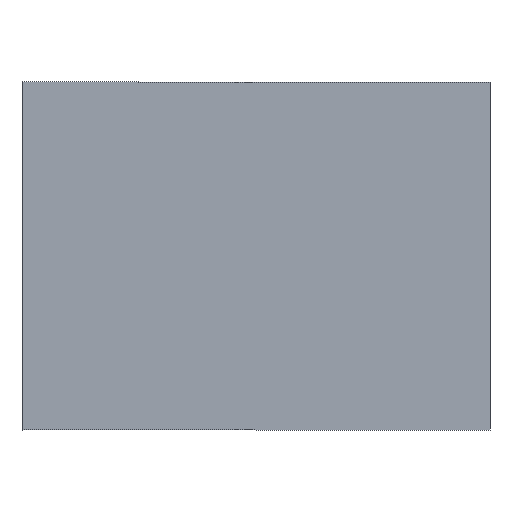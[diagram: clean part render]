
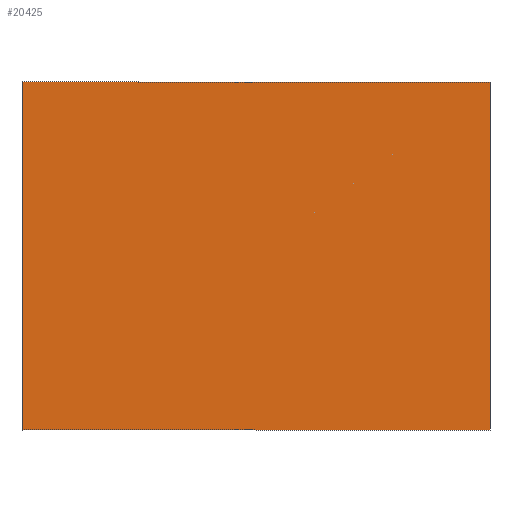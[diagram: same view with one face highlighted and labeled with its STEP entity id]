
A CAD part, front view. The second image highlights one B-rep face of the part: STEP entity #20425.
In plain terms, the highlighted planar face has unit normal (0, -1, 0).
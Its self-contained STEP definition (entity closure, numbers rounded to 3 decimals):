
#3254 = CARTESIAN_POINT ( 'NONE',  ( 195., 0., 145. ) ) ;
#4995 = ORIENTED_EDGE ( 'NONE', *, *, #19566, .F. ) ;
#7749 = VERTEX_POINT ( 'NONE', #47792 ) ;
#8196 = VERTEX_POINT ( 'NONE', #48076 ) ;
#9381 = ORIENTED_EDGE ( 'NONE', *, *, #35264, .F. ) ;
#11664 = VECTOR ( 'NONE', #22596, 1000. ) ;
#14112 = DIRECTION ( 'NONE',  ( 0., 1., 0. ) ) ;
#14364 = ORIENTED_EDGE ( 'NONE', *, *, #50785, .F. ) ;
#14716 = VECTOR ( 'NONE', #44839, 1000. ) ;
#14807 = LINE ( 'NONE', #3254, #44438 ) ;
#15110 = DIRECTION ( 'NONE',  ( 0., 0., -1. ) ) ;
#16090 = ORIENTED_EDGE ( 'NONE', *, *, #24889, .F. ) ;
#19566 = EDGE_CURVE ( 'NONE', #35080, #7749, #36482, .T. ) ;
#20425 = ADVANCED_FACE ( 'NONE', ( #36435 ), #30283, .F. ) ;
#21204 = LINE ( 'NONE', #46641, #11664 ) ;
#22596 = DIRECTION ( 'NONE',  ( 0., 0., 1. ) ) ;
#24889 = EDGE_CURVE ( 'NONE', #8196, #35080, #14807, .T. ) ;
#27808 = VERTEX_POINT ( 'NONE', #39425 ) ;
#30283 = PLANE ( 'NONE',  #42576 ) ;
#35080 = VERTEX_POINT ( 'NONE', #35535 ) ;
#35205 = VECTOR ( 'NONE', #15110, 1000. ) ;
#35264 = EDGE_CURVE ( 'NONE', #7749, #27808, #46852, .T. ) ;
#35535 = CARTESIAN_POINT ( 'NONE',  ( 195., 0., 145. ) ) ;
#35917 = DIRECTION ( 'NONE',  ( 1., 0., 0. ) ) ;
#36435 = FACE_OUTER_BOUND ( 'NONE', #39979, .T. ) ;
#36482 = LINE ( 'NONE', #50997, #35205 ) ;
#36778 = CARTESIAN_POINT ( 'NONE',  ( 195., 0., -145. ) ) ;
#38298 = CARTESIAN_POINT ( 'NONE',  ( 0., 0., 0. ) ) ;
#39425 = CARTESIAN_POINT ( 'NONE',  ( -195., 0., -145. ) ) ;
#39979 = EDGE_LOOP ( 'NONE', ( #14364, #9381, #4995, #16090 ) ) ;
#42322 = DIRECTION ( 'NONE',  ( 0., 0., 1. ) ) ;
#42576 = AXIS2_PLACEMENT_3D ( 'NONE', #38298, #14112, #42322 ) ;
#44438 = VECTOR ( 'NONE', #35917, 1000. ) ;
#44839 = DIRECTION ( 'NONE',  ( -1., 0., 0. ) ) ;
#46641 = CARTESIAN_POINT ( 'NONE',  ( -195., 0., 145. ) ) ;
#46852 = LINE ( 'NONE', #36778, #14716 ) ;
#47792 = CARTESIAN_POINT ( 'NONE',  ( 195., 0., -145. ) ) ;
#48076 = CARTESIAN_POINT ( 'NONE',  ( -195., 0., 145. ) ) ;
#50785 = EDGE_CURVE ( 'NONE', #27808, #8196, #21204, .T. ) ;
#50997 = CARTESIAN_POINT ( 'NONE',  ( 195., 0., 145. ) ) ;
